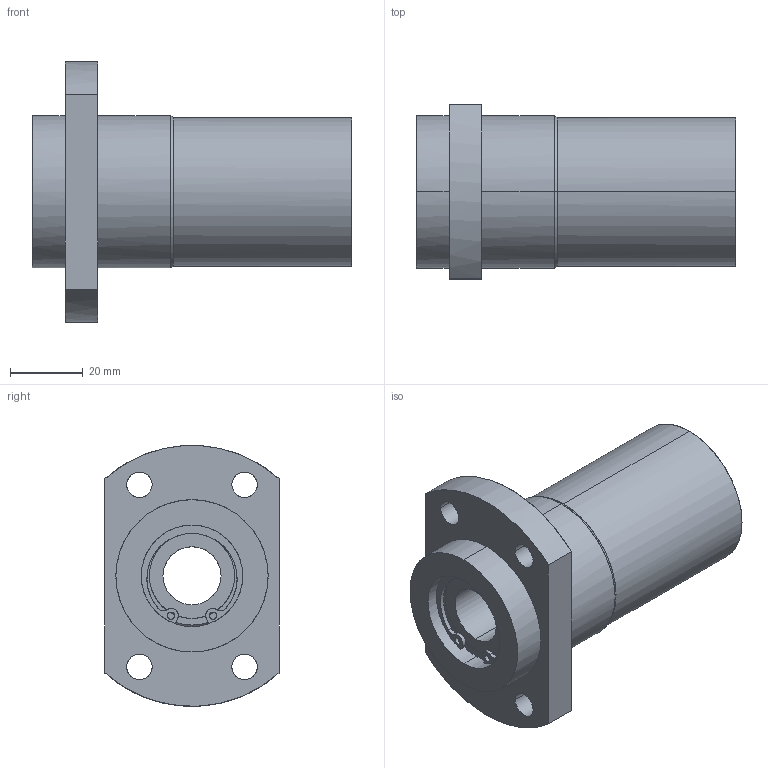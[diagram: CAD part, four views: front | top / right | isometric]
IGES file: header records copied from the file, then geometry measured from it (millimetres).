
Global section: file name: No Iges File Name specified; native system: AutoDesk Inventor R11.0; preprocessor: AutoDesk Inventor Iges Exporter R11.0; author: No Author specified; organization: No Organization specified; date: 20170922.133053; units: millimetre
Bounding box: 88 x 48 x 71.92 mm (x, y, z)
Surface area: 24571 mm2 (no closed solid volume)
Topology: 0 solids, 0 shells, 95 faces, 708 edges, 708 vertices
Faces by surface type: bspline 95
